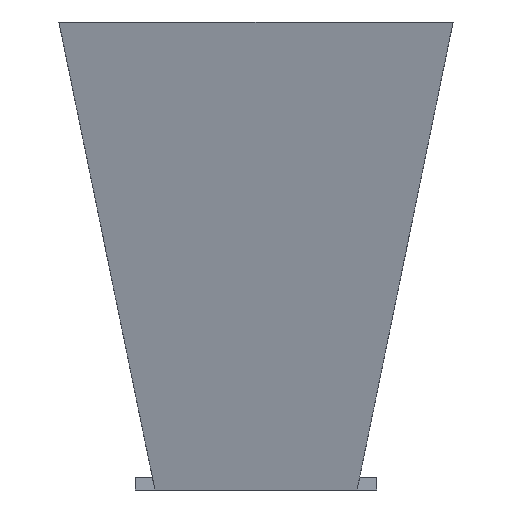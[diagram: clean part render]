
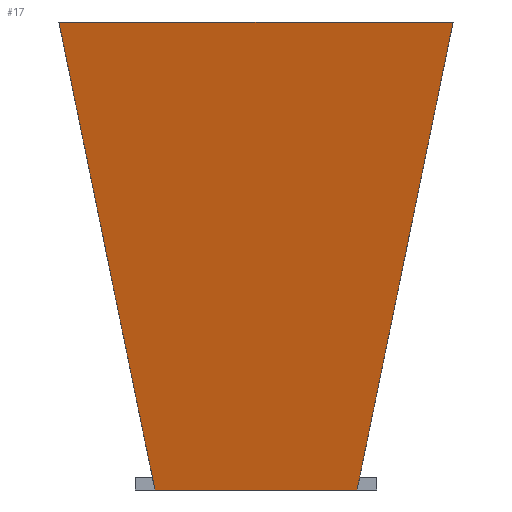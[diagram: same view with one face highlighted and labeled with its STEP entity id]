
A CAD part, front view. The second image highlights one B-rep face of the part: STEP entity #17.
In plain terms, the highlighted free-form (B-spline) face has degree [1, 1] with [2, 2] control points.
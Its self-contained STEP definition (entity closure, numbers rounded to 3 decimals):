
#17 = ADVANCED_FACE('',(#18),#32,.T.);
#18 = FACE_BOUND('',#19,.T.);
#19 = EDGE_LOOP('',(#20,#54,#81,#109));
#20 = ORIENTED_EDGE('',*,*,#21,.T.);
#21 = EDGE_CURVE('',#22,#24,#26,.T.);
#22 = VERTEX_POINT('',#23);
#23 = CARTESIAN_POINT('',(-41.,-41.,0.));
#24 = VERTEX_POINT('',#25);
#25 = CARTESIAN_POINT('',(41.,-41.,0.));
#26 = SURFACE_CURVE('',#27,(#31,#42),.PCURVE_S1.);
#27 = LINE('',#28,#29);
#28 = CARTESIAN_POINT('',(-41.,-41.,0.));
#29 = VECTOR('',#30,1.);
#30 = DIRECTION('',(1.,0.,0.));
#31 = PCURVE('',#32,#37);
#32 = B_SPLINE_SURFACE_WITH_KNOTS('',1,1,(
    (#33,#34)
    ,(#35,#36)),.UNSPECIFIED.,.F.,.F.,.F.,(2,2),(2,2),(0.,160.),(0.,1.),
  .PIECEWISE_BEZIER_KNOTS.);
#33 = CARTESIAN_POINT('',(-41.,-41.,0.));
#34 = CARTESIAN_POINT('',(-80.,-80.,190.));
#35 = CARTESIAN_POINT('',(41.,-41.,0.));
#36 = CARTESIAN_POINT('',(80.,-80.,190.));
#37 = DEFINITIONAL_REPRESENTATION('',(#38),#41);
#38 = B_SPLINE_CURVE_WITH_KNOTS('',1,(#39,#40),.UNSPECIFIED.,.F.,.F.,(2,
    2),(0.,82.),.PIECEWISE_BEZIER_KNOTS.);
#39 = CARTESIAN_POINT('',(0.,0.));
#40 = CARTESIAN_POINT('',(160.,0.));
#41 = ( GEOMETRIC_REPRESENTATION_CONTEXT(2) 
PARAMETRIC_REPRESENTATION_CONTEXT() REPRESENTATION_CONTEXT('2D SPACE',''
  ) );
#42 = PCURVE('',#43,#48);
#43 = PLANE('',#44);
#44 = AXIS2_PLACEMENT_3D('',#45,#46,#47);
#45 = CARTESIAN_POINT('',(-41.,-41.,0.));
#46 = DIRECTION('',(0.,0.,-1.));
#47 = DIRECTION('',(0.707,0.707,0.));
#48 = DEFINITIONAL_REPRESENTATION('',(#49),#53);
#49 = LINE('',#50,#51);
#50 = CARTESIAN_POINT('',(0.,0.));
#51 = VECTOR('',#52,1.);
#52 = DIRECTION('',(0.707,0.707));
#53 = ( GEOMETRIC_REPRESENTATION_CONTEXT(2) 
PARAMETRIC_REPRESENTATION_CONTEXT() REPRESENTATION_CONTEXT('2D SPACE',''
  ) );
#54 = ORIENTED_EDGE('',*,*,#55,.T.);
#55 = EDGE_CURVE('',#24,#56,#58,.T.);
#56 = VERTEX_POINT('',#57);
#57 = CARTESIAN_POINT('',(80.,-80.,190.));
#58 = SURFACE_CURVE('',#59,(#62,#69),.PCURVE_S1.);
#59 = B_SPLINE_CURVE_WITH_KNOTS('',1,(#60,#61),.UNSPECIFIED.,.F.,.F.,(2,
    2),(0.,1.),.PIECEWISE_BEZIER_KNOTS.);
#60 = CARTESIAN_POINT('',(41.,-41.,0.));
#61 = CARTESIAN_POINT('',(80.,-80.,190.));
#62 = PCURVE('',#32,#63);
#63 = DEFINITIONAL_REPRESENTATION('',(#64),#68);
#64 = LINE('',#65,#66);
#65 = CARTESIAN_POINT('',(160.,0.));
#66 = VECTOR('',#67,1.);
#67 = DIRECTION('',(0.,1.));
#68 = ( GEOMETRIC_REPRESENTATION_CONTEXT(2) 
PARAMETRIC_REPRESENTATION_CONTEXT() REPRESENTATION_CONTEXT('2D SPACE',''
  ) );
#69 = PCURVE('',#70,#75);
#70 = B_SPLINE_SURFACE_WITH_KNOTS('',1,1,(
    (#71,#72)
    ,(#73,#74)),.UNSPECIFIED.,.F.,.F.,.F.,(2,2),(2,2),(0.,160.),(0.,1.),
  .PIECEWISE_BEZIER_KNOTS.);
#71 = CARTESIAN_POINT('',(41.,-41.,0.));
#72 = CARTESIAN_POINT('',(80.,-80.,190.));
#73 = CARTESIAN_POINT('',(41.,41.,0.));
#74 = CARTESIAN_POINT('',(80.,80.,190.));
#75 = DEFINITIONAL_REPRESENTATION('',(#76),#80);
#76 = LINE('',#77,#78);
#77 = CARTESIAN_POINT('',(0.,0.));
#78 = VECTOR('',#79,1.);
#79 = DIRECTION('',(0.,1.));
#80 = ( GEOMETRIC_REPRESENTATION_CONTEXT(2) 
PARAMETRIC_REPRESENTATION_CONTEXT() REPRESENTATION_CONTEXT('2D SPACE',''
  ) );
#81 = ORIENTED_EDGE('',*,*,#82,.F.);
#82 = EDGE_CURVE('',#83,#56,#85,.T.);
#83 = VERTEX_POINT('',#84);
#84 = CARTESIAN_POINT('',(-80.,-80.,190.));
#85 = SURFACE_CURVE('',#86,(#90,#97),.PCURVE_S1.);
#86 = LINE('',#87,#88);
#87 = CARTESIAN_POINT('',(-80.,-80.,190.));
#88 = VECTOR('',#89,1.);
#89 = DIRECTION('',(1.,0.,0.));
#90 = PCURVE('',#32,#91);
#91 = DEFINITIONAL_REPRESENTATION('',(#92),#96);
#92 = LINE('',#93,#94);
#93 = CARTESIAN_POINT('',(0.,1.));
#94 = VECTOR('',#95,1.);
#95 = DIRECTION('',(1.,0.));
#96 = ( GEOMETRIC_REPRESENTATION_CONTEXT(2) 
PARAMETRIC_REPRESENTATION_CONTEXT() REPRESENTATION_CONTEXT('2D SPACE',''
  ) );
#97 = PCURVE('',#98,#103);
#98 = PLANE('',#99);
#99 = AXIS2_PLACEMENT_3D('',#100,#101,#102);
#100 = CARTESIAN_POINT('',(-80.,-80.,190.));
#101 = DIRECTION('',(0.,0.,-1.));
#102 = DIRECTION('',(0.707,0.707,0.));
#103 = DEFINITIONAL_REPRESENTATION('',(#104),#108);
#104 = LINE('',#105,#106);
#105 = CARTESIAN_POINT('',(0.,0.));
#106 = VECTOR('',#107,1.);
#107 = DIRECTION('',(0.707,0.707));
#108 = ( GEOMETRIC_REPRESENTATION_CONTEXT(2) 
PARAMETRIC_REPRESENTATION_CONTEXT() REPRESENTATION_CONTEXT('2D SPACE',''
  ) );
#109 = ORIENTED_EDGE('',*,*,#110,.F.);
#110 = EDGE_CURVE('',#22,#83,#111,.T.);
#111 = SURFACE_CURVE('',#112,(#115,#122),.PCURVE_S1.);
#112 = B_SPLINE_CURVE_WITH_KNOTS('',1,(#113,#114),.UNSPECIFIED.,.F.,.F.,
  (2,2),(0.,1.),.PIECEWISE_BEZIER_KNOTS.);
#113 = CARTESIAN_POINT('',(-41.,-41.,0.));
#114 = CARTESIAN_POINT('',(-80.,-80.,190.));
#115 = PCURVE('',#32,#116);
#116 = DEFINITIONAL_REPRESENTATION('',(#117),#121);
#117 = LINE('',#118,#119);
#118 = CARTESIAN_POINT('',(0.,0.));
#119 = VECTOR('',#120,1.);
#120 = DIRECTION('',(0.,1.));
#121 = ( GEOMETRIC_REPRESENTATION_CONTEXT(2) 
PARAMETRIC_REPRESENTATION_CONTEXT() REPRESENTATION_CONTEXT('2D SPACE',''
  ) );
#122 = PCURVE('',#123,#128);
#123 = B_SPLINE_SURFACE_WITH_KNOTS('',1,1,(
    (#124,#125)
    ,(#126,#127
    )),.UNSPECIFIED.,.F.,.F.,.F.,(2,2),(2,2),(0.,160.),(0.,1.),
  .PIECEWISE_BEZIER_KNOTS.);
#124 = CARTESIAN_POINT('',(-41.,41.,0.));
#125 = CARTESIAN_POINT('',(-80.,80.,190.));
#126 = CARTESIAN_POINT('',(-41.,-41.,0.));
#127 = CARTESIAN_POINT('',(-80.,-80.,190.));
#128 = DEFINITIONAL_REPRESENTATION('',(#129),#133);
#129 = LINE('',#130,#131);
#130 = CARTESIAN_POINT('',(160.,0.));
#131 = VECTOR('',#132,1.);
#132 = DIRECTION('',(0.,1.));
#133 = ( GEOMETRIC_REPRESENTATION_CONTEXT(2) 
PARAMETRIC_REPRESENTATION_CONTEXT() REPRESENTATION_CONTEXT('2D SPACE',''
  ) );
